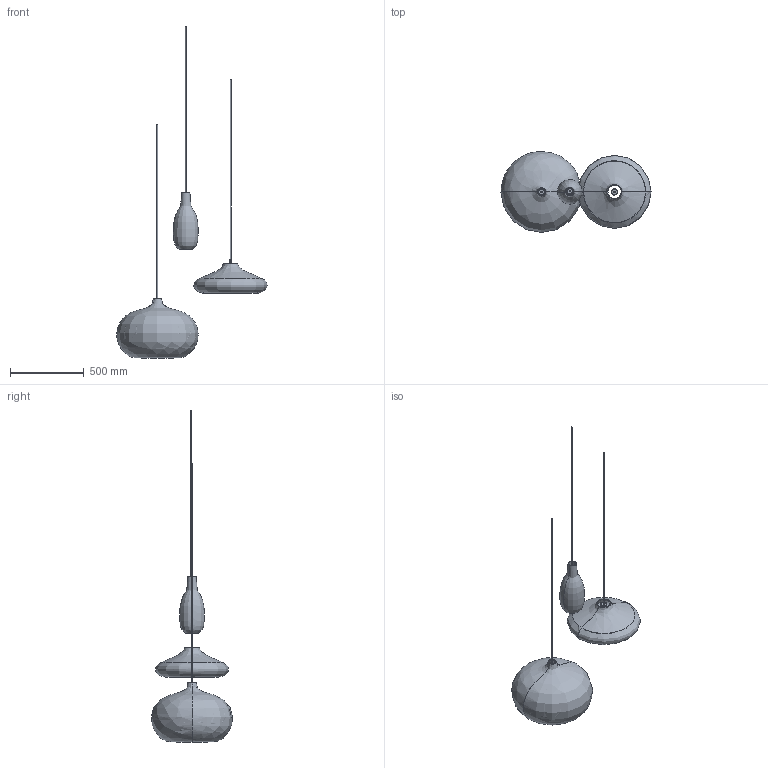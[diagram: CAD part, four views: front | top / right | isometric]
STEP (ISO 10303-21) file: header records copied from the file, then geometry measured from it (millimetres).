
FILE_DESCRIPTION(/* description */ (''),/* implementation_level */ '2;1');
FILE_NAME(/* name */ 'BX2CCE~O',/* time_stamp */ '2019-09-06T14:00:13+02:00',/* author */ (''),/* organization */ (''),/* preprocessor_version */ 'ST-DEVELOPER v16.5',/* originating_system */ '',/* authorisation */ '');
FILE_SCHEMA (('AUTOMOTIVE_DESIGN'));
Length unit declared in the file: millimetre
Products named in the file (3): Document; bulb fitting cover E27; tube
Assembly tree (6 placements, depth 2):
  Document
    bulb fitting cover E27  x3
    tube  x3
Bounding box: 1015.06 x 547.93 x 2243.53 mm (x, y, z)
Volume: 6583119.4 mm3; surface area: 2662169.6 mm2
Topology: 12 solids, 12 shells, 97 faces, 188 edges, 112 vertices
Faces by surface type: bspline 76, plane 21
Entity records: 5060 total; most frequent: CARTESIAN_POINT 4285, ORIENTED_EDGE 224, EDGE_CURVE 112, EDGE_LOOP 64, VERTEX_POINT 64, ADVANCED_FACE 59, FACE_OUTER_BOUND 59, DIRECTION 35
